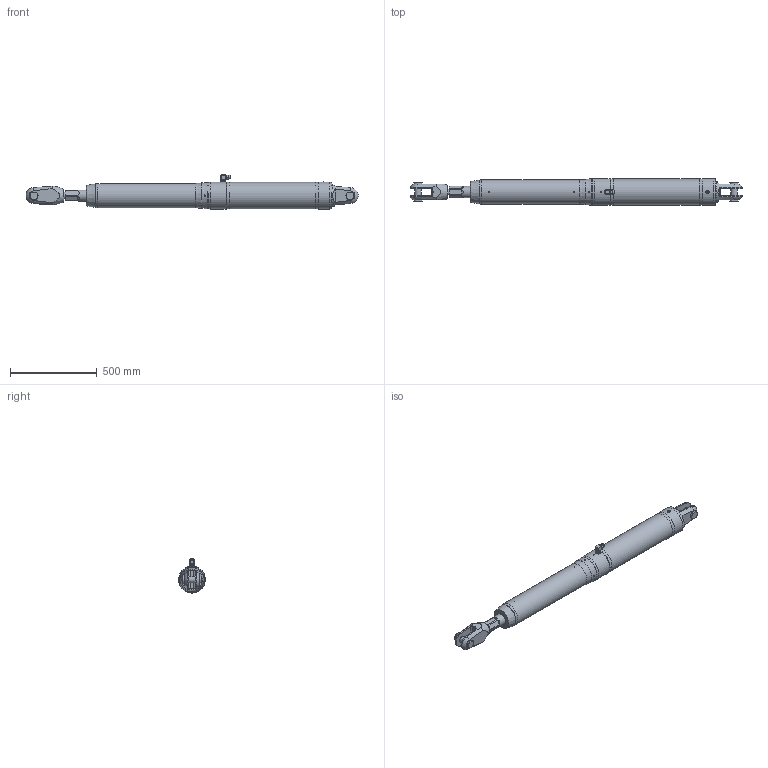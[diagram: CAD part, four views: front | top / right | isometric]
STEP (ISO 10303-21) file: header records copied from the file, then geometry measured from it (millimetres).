
FILE_DESCRIPTION(/* description */ (''),/* implementation_level */ '2;1');
FILE_NAME(/* name */ 'Q:\AA BRAND HYDRAULICS\HYDRAULICS FAMILY DIRECTORY\HYDRAULICS\CYLINDERS\MECHANICAL LOCK RAMS\ALUMINIUM - STAINLESS SINGLE ACTING (-0012 To -0150)\MSA-0115-S0475-NP-71\MSA-0115-S0475-NP-71 (Closed).stp',/* time_stamp */ '2018-04-25T17:21:15+01:00',/* author */ ('Lorena'),/* organization */ (''),/* preprocessor_version */ 'ST-DEVELOPER v17',/* originating_system */ 'Autodesk Inventor 2018',/* authorisation */ '');
FILE_SCHEMA (('AUTOMOTIVE_DESIGN { 1 0 10303 214 3 1 1 }'));
Length unit declared in the file: millimetre
Products named in the file (1): MSA-0115-S0475-NP-71 (Closed)
Bounding box: 1917.44 x 155.4 x 197.3 mm (x, y, z)
Volume: 26575295.4 mm3; surface area: 899367.8 mm2
Topology: 2 solids, 4 shells, 496 faces, 1293 edges, 842 vertices
Faces by surface type: plane 281, cone 126, cylinder 75, torus 6, sphere 4, bspline 4
Full cylindrical faces by diameter (mm): 4 x1, 4.134 x1, 4.2 x2, 5 x1, 7 x1, 8 x4, 9 x1, 9.9 x1, 10 x2, 11.1 x1, 18.9 x1, 19 x3, 19.11 x1, 19.9 x1, 20 x1, 20.9 x2, 22 x2, 24 x2, 27.8 x3, 30 x1, 38.1 x2, 39 x1, 47.625 x2, 65 x2, 66 x2, 69 x1, 140 x1, 152.4 x1, 155.4 x4
Entity records: 16724 total; most frequent: CARTESIAN_POINT 4160, ORIENTED_EDGE 2570, DIRECTION 2510, EDGE_CURVE 1285, AXIS2_PLACEMENT_3D 965, VERTEX_POINT 843, LINE 580, VECTOR 580
